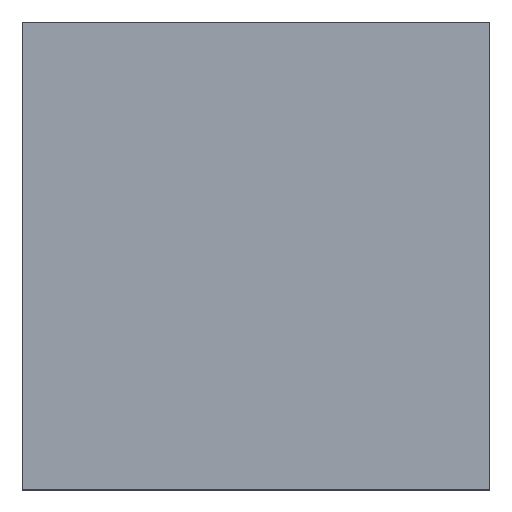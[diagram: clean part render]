
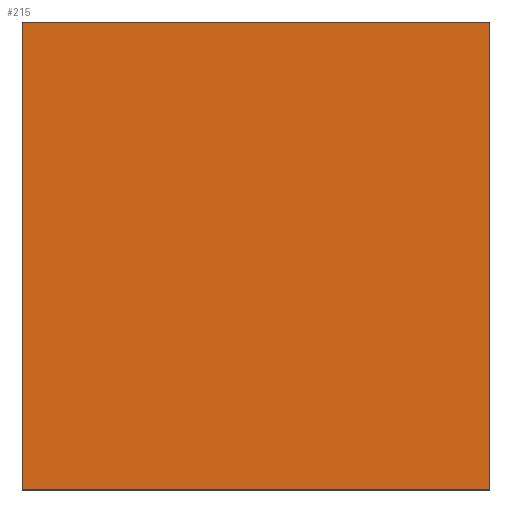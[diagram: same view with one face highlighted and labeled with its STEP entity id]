
A CAD part, top view. The second image highlights one B-rep face of the part: STEP entity #215.
In plain terms, the highlighted planar face has unit normal (0, 0, 1) as drawn and (0, 1, 0) by its records, which use the part's own axes.
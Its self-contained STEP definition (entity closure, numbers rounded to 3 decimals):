
#88=DIRECTION('',(0.,0.,1.));
#89=VECTOR('',#88,1.);
#90=CARTESIAN_POINT('',(-0.5,0.375,-0.5));
#91=LINE('',#90,#89);
#95=DIRECTION('',(-1.,0.,0.));
#96=VECTOR('',#95,1.);
#97=CARTESIAN_POINT('',(0.5,0.375,-0.5));
#98=LINE('',#97,#96);
#102=DIRECTION('',(0.,0.,-1.));
#103=VECTOR('',#102,1.);
#104=CARTESIAN_POINT('',(0.5,0.375,0.5));
#105=LINE('',#104,#103);
#109=DIRECTION('',(1.,0.,0.));
#110=VECTOR('',#109,1.);
#111=CARTESIAN_POINT('',(-0.5,0.375,0.5));
#112=LINE('',#111,#110);
#124=CARTESIAN_POINT('',(-0.5,0.375,-0.5));
#125=CARTESIAN_POINT('',(-0.5,0.375,0.5));
#126=VERTEX_POINT('',#124);
#127=VERTEX_POINT('',#125);
#128=CARTESIAN_POINT('',(0.5,0.375,0.5));
#129=VERTEX_POINT('',#128);
#130=CARTESIAN_POINT('',(0.5,0.375,-0.5));
#131=VERTEX_POINT('',#130);
#204=CARTESIAN_POINT('',(0.,0.375,0.));
#205=DIRECTION('',(0.,1.,0.));
#206=DIRECTION('',(1.,0.,0.));
#207=AXIS2_PLACEMENT_3D('',#204,#205,#206);
#208=PLANE('',#207);
#209=ORIENTED_EDGE('',*,*,#156,.F.);
#210=ORIENTED_EDGE('',*,*,#171,.F.);
#211=ORIENTED_EDGE('',*,*,#185,.F.);
#212=ORIENTED_EDGE('',*,*,#198,.F.);
#213=EDGE_LOOP('',(#209,#210,#211,#212));
#214=FACE_OUTER_BOUND('',#213,.F.);
#215=ADVANCED_FACE('',(#214),#208,.T.);
#156=EDGE_CURVE('',#126,#127,#91,.T.);
#171=EDGE_CURVE('',#131,#126,#98,.T.);
#185=EDGE_CURVE('',#129,#131,#105,.T.);
#198=EDGE_CURVE('',#127,#129,#112,.T.);
